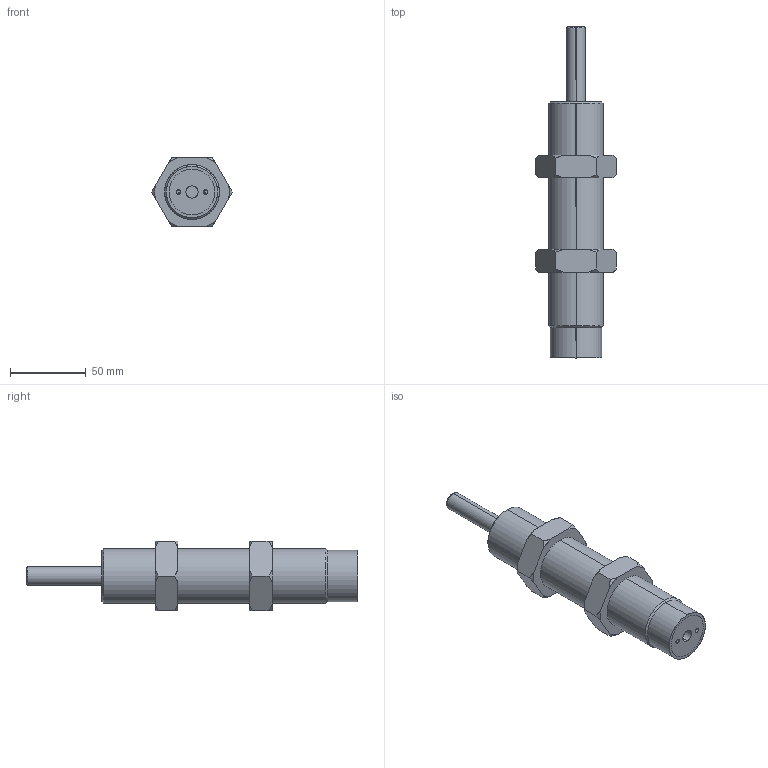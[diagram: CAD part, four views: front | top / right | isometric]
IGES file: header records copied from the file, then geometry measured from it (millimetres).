
Start section: SolidWorks IGES file using analytic representation for surfaces
Bounding box: 53.12 x 218.5 x 46 mm (x, y, z)
Surface area: 33251.6 mm2 (no closed solid volume)
Topology: 0 solids, 0 shells, 90 faces, 1650 edges, 1650 vertices
Faces by surface type: revolution 64, bspline 26
